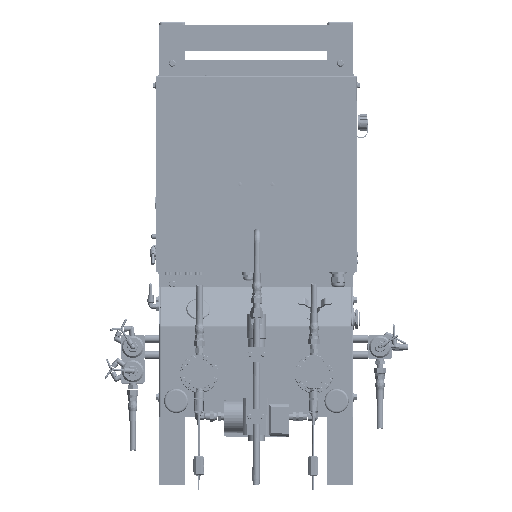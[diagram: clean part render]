
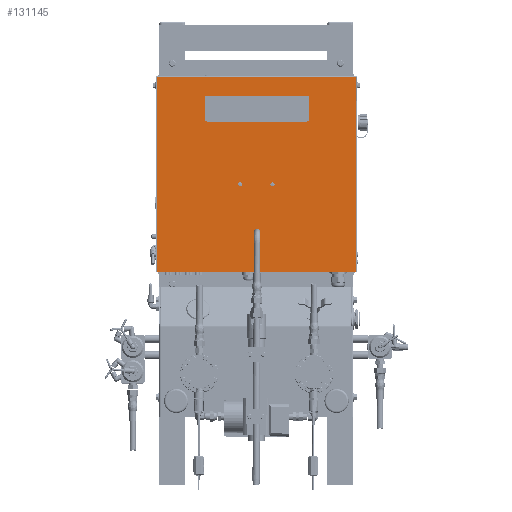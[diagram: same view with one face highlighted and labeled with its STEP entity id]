
A CAD part, top view. The second image highlights one B-rep face of the part: STEP entity #131145.
In plain terms, the highlighted planar face has unit normal (0, 0, 1).
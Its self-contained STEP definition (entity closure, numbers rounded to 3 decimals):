
#129626=DIRECTION('',(0.,-1.,0.));
#129627=VECTOR('',#129626,15.03);
#129628=CARTESIAN_POINT('',(7.675,21.77,-0.865));
#129629=LINE('',#129628,#129627);
#129630=DIRECTION('',(-1.,0.,0.));
#129631=VECTOR('',#129630,15.35);
#129632=CARTESIAN_POINT('',(7.675,6.74,-0.865));
#129633=LINE('',#129632,#129631);
#129634=DIRECTION('',(0.,1.,0.));
#129635=VECTOR('',#129634,15.03);
#129636=CARTESIAN_POINT('',(-7.675,6.74,-0.865));
#129637=LINE('',#129636,#129635);
#129638=DIRECTION('',(1.,0.,0.));
#129639=VECTOR('',#129638,15.35);
#129640=CARTESIAN_POINT('',(-7.675,21.77,-0.865));
#129641=LINE('',#129640,#129639);
#130754=CARTESIAN_POINT('',(-7.675,21.77,-0.865));
#130755=CARTESIAN_POINT('',(7.675,21.77,-0.865));
#130756=VERTEX_POINT('',#130754);
#130757=VERTEX_POINT('',#130755);
#130758=CARTESIAN_POINT('',(7.675,6.74,-0.865));
#130759=VERTEX_POINT('',#130758);
#130760=CARTESIAN_POINT('',(-7.675,6.74,-0.865));
#130761=VERTEX_POINT('',#130760);
#131130=CARTESIAN_POINT('',(0.,14.255,-0.865));
#131131=DIRECTION('',(0.,0.,-1.));
#131132=DIRECTION('',(-1.,0.,0.));
#131133=AXIS2_PLACEMENT_3D('',#131130,#131131,#131132);
#131134=PLANE('',#131133);
#131136=ORIENTED_EDGE('',*,*,#131135,.T.);
#131138=ORIENTED_EDGE('',*,*,#131137,.T.);
#131140=ORIENTED_EDGE('',*,*,#131139,.T.);
#131142=ORIENTED_EDGE('',*,*,#131141,.T.);
#131143=EDGE_LOOP('',(#131136,#131138,#131140,#131142));
#131144=FACE_OUTER_BOUND('',#131143,.F.);
#131145=ADVANCED_FACE('',(#131144),#131134,.F.);
#131135=EDGE_CURVE('',#130757,#130759,#129629,.T.);
#131137=EDGE_CURVE('',#130759,#130761,#129633,.T.);
#131139=EDGE_CURVE('',#130761,#130756,#129637,.T.);
#131141=EDGE_CURVE('',#130756,#130757,#129641,.T.);
